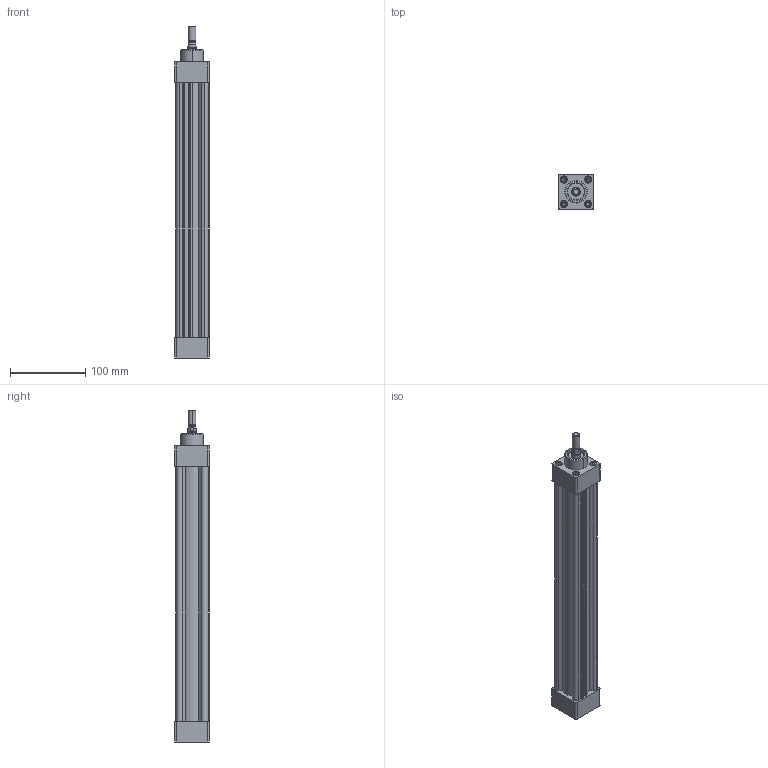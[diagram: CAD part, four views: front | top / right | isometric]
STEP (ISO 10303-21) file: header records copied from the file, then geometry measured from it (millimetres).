
FILE_DESCRIPTION (( 'STEP AP214' ), '1' );
FILE_NAME ('WSI-032-0300 (MDMY).STEP', '2016-07-13T09:55:30', ( 'Hidtek' ), ( '' ), 'SwSTEP 2.0', 'SolidWorks 2016', '' );
FILE_SCHEMA (( 'AUTOMOTIVE_DESIGN' ));
Length unit declared in the file: millimetre
Products named in the file (3): WSI-032-0300 (MDMY); Group1^WSI-032-0300 (MDMY); Group2^WSI-032-0300 (MDMY)
Assembly tree (2 placements, depth 2):
  WSI-032-0300 (MDMY)
    Group1^WSI-032-0300 (MDMY)
    Group2^WSI-032-0300 (MDMY)
Bounding box: 46.5 x 46.5 x 441.2 mm (x, y, z)
Volume: 427485.3 mm3; surface area: 158764.7 mm2
Topology: 12 solids, 12 shells, 384 faces, 916 edges, 588 vertices
Faces by surface type: plane 227, cylinder 103, cone 50, torus 4
Entity records: 11801 total; most frequent: CARTESIAN_POINT 2233, DIRECTION 1880, ORIENTED_EDGE 1816, EDGE_CURVE 908, AXIS2_PLACEMENT_3D 655, VERTEX_POINT 588, LINE 570, VECTOR 570
